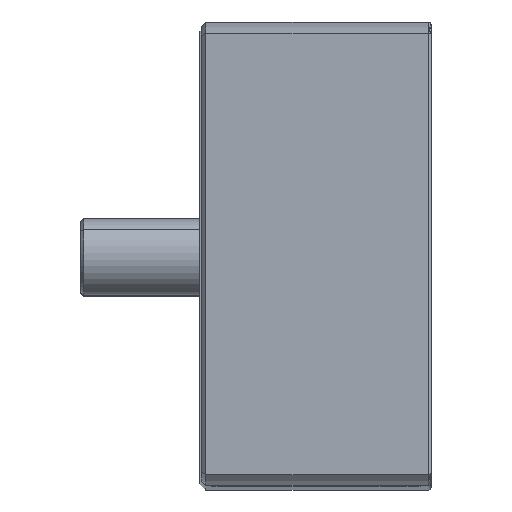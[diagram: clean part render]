
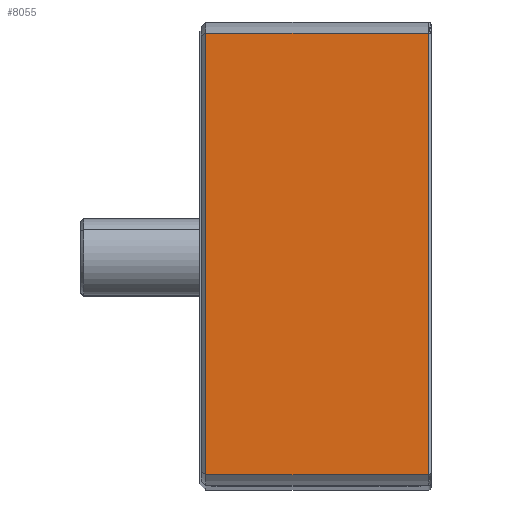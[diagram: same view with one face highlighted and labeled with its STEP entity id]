
A CAD part, top view. The second image highlights one B-rep face of the part: STEP entity #8055.
In plain terms, the highlighted planar face has unit normal (0, 0, 1).
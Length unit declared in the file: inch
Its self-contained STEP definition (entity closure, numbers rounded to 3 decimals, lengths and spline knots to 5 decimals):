
#44 = LINE ( 'NONE', #1976, #6344 ) ;
#259 = DIRECTION ( 'NONE',  ( 0., -1., 0. ) ) ;
#424 = ORIENTED_EDGE ( 'NONE', *, *, #5223, .T. ) ;
#427 = EDGE_LOOP ( 'NONE', ( #3885, #3866, #833, #424 ) ) ;
#689 = AXIS2_PLACEMENT_3D ( 'NONE', #933, #1443, #1529 ) ;
#833 = ORIENTED_EDGE ( 'NONE', *, *, #3666, .T. ) ;
#933 = CARTESIAN_POINT ( 'NONE',  ( -1.5, -1.42761, 12.505 ) ) ;
#938 = CARTESIAN_POINT ( 'NONE',  ( -1.46, -1.42761, 12.505 ) ) ;
#1443 = DIRECTION ( 'NONE',  ( 0., 0., 1. ) ) ;
#1529 = DIRECTION ( 'NONE',  ( 1., 0., 0. ) ) ;
#1827 = VECTOR ( 'NONE', #2100, 39.37008 ) ;
#1976 = CARTESIAN_POINT ( 'NONE',  ( -0.02, 1.42761, 12.505 ) ) ;
#2043 = VECTOR ( 'NONE', #259, 39.37008 ) ;
#2100 = DIRECTION ( 'NONE',  ( 1., 0., 0. ) ) ;
#2254 = VECTOR ( 'NONE', #4625, 39.37008 ) ;
#3241 = DIRECTION ( 'NONE',  ( 0., 1., 0. ) ) ;
#3542 = CARTESIAN_POINT ( 'NONE',  ( -1.46, -1.42761, 12.505 ) ) ;
#3666 = EDGE_CURVE ( 'NONE', #6558, #6659, #5965, .T. ) ;
#3840 = FACE_OUTER_BOUND ( 'NONE', #427, .T. ) ;
#3866 = ORIENTED_EDGE ( 'NONE', *, *, #4369, .T. ) ;
#3885 = ORIENTED_EDGE ( 'NONE', *, *, #5910, .F. ) ;
#3999 = CARTESIAN_POINT ( 'NONE',  ( -1.5, -1.42761, 12.505 ) ) ;
#4369 = EDGE_CURVE ( 'NONE', #6584, #6558, #6448, .T. ) ;
#4625 = DIRECTION ( 'NONE',  ( 1., 0., 0. ) ) ;
#4666 = CARTESIAN_POINT ( 'NONE',  ( -0.02, 1.42761, 12.505 ) ) ;
#5223 = EDGE_CURVE ( 'NONE', #6659, #8073, #44, .T. ) ;
#5786 = CARTESIAN_POINT ( 'NONE',  ( -1.5, 1.42761, 12.505 ) ) ;
#5826 = LINE ( 'NONE', #5786, #1827 ) ;
#5910 = EDGE_CURVE ( 'NONE', #6584, #8073, #5826, .T. ) ;
#5965 = LINE ( 'NONE', #3999, #2254 ) ;
#6344 = VECTOR ( 'NONE', #3241, 39.37008 ) ;
#6448 = LINE ( 'NONE', #938, #2043 ) ;
#6558 = VERTEX_POINT ( 'NONE', #3542 ) ;
#6584 = VERTEX_POINT ( 'NONE', #6664 ) ;
#6659 = VERTEX_POINT ( 'NONE', #7337 ) ;
#6664 = CARTESIAN_POINT ( 'NONE',  ( -1.46, 1.42761, 12.505 ) ) ;
#7337 = CARTESIAN_POINT ( 'NONE',  ( -0.02, -1.42761, 12.505 ) ) ;
#7825 = PLANE ( 'NONE',  #689 ) ;
#8055 = ADVANCED_FACE ( 'NONE', ( #3840 ), #7825, .T. ) ;
#8073 = VERTEX_POINT ( 'NONE', #4666 ) ;
